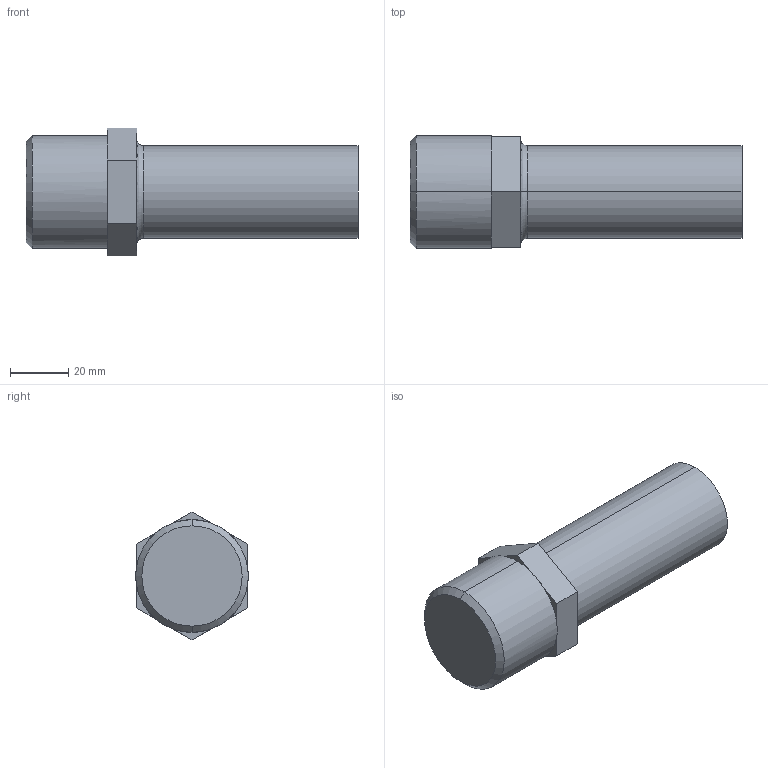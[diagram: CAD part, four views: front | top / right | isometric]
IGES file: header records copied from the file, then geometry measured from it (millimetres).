
Start section: SolidWorks IGES file using analytic representation for surfaces
Global section: file name: S:\Product Visuals\Pumps to be Defeatured\140 fittings\FITTING ASSEMBLIES\DEFEATURED\20-tube-out.IGS; native system: SolidWorks 2012; preprocessor: SolidWorks 2012; author: rachel.dressel; date: 121203.115446; units: inch
Bounding box: 114.3 x 38.79 x 43.99 mm (x, y, z)
Volume: 52125.6 mm3; surface area: 22091.1 mm2
Topology: 1 solids, 1 shells, 34 faces, 72 edges, 42 vertices
Faces by surface type: plane 22, revolution 12
